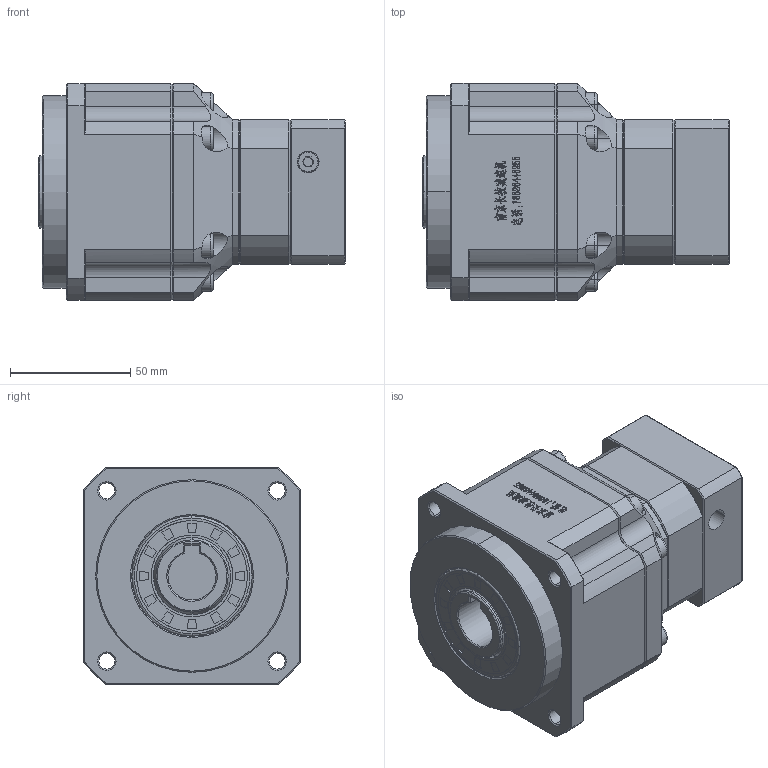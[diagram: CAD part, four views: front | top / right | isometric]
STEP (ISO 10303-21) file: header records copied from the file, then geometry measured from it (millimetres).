
FILE_DESCRIPTION (( 'STEP AP214' ), '1' );
FILE_NAME ('ZPB090-K20-L2-P1-6.35-38.1-47.14X47.14-M4.step', '2024-06-07T18:27:01', ( 'Windows 蚚誧' ), ( 'Organization' ), 'SwSTEP 2.0', 'SolidWorks 2016', '' );
FILE_SCHEMA (( 'AUTOMOTIVE_DESIGN' ));
Length unit declared in the file: millimetre
Products named in the file (1): ZPB090-K20-L2-P1-6.35-38.1-47.14X47.14-M4
Bounding box: 127.5 x 90 x 90 mm (x, y, z)
Surface area: 66839.3 mm2 (no closed solid volume)
Topology: 0 solids, 32 shells, 2059 faces, 5428 edges, 3435 vertices
Faces by surface type: plane 1078, bspline 376, cone 298, cylinder 285, torus 22
Entity records: 96107 total; most frequent: CARTESIAN_POINT 43891, ORIENTED_EDGE 10820, DIRECTION 8364, EDGE_CURVE 5428, VERTEX_POINT 3435, LINE 3420, VECTOR 3420, AXIS2_PLACEMENT_3D 2472
